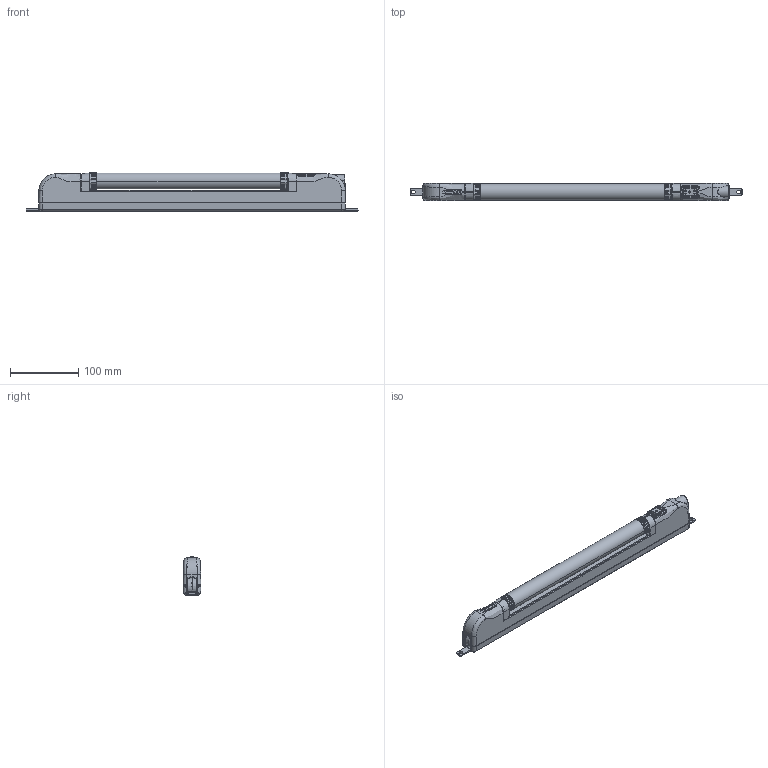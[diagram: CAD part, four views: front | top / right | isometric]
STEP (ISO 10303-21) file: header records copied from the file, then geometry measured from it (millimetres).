
FILE_DESCRIPTION((''),'2;1');
FILE_NAME('ZUSBAU_KUNDEN_LED_SW0001','2013-01-19T',('Administrator'),(''),'PRO/ENGINEER BY PARAMETRIC TECHNOLOGY CORPORATION, 2009460','PRO/ENGINEER BY PARAMETRIC TECHNOLOGY CORPORATION, 2009460','');
FILE_SCHEMA(('AUTOMOTIVE_DESIGN_CC2 { 1 2 10303 214 -1 1 5 2 }'));
Length unit declared in the file: millimetre
Products named in the file (1): ZUSBAU_KUNDEN_LED_SW0001
Bounding box: 485 x 26.17 x 56.14 mm (x, y, z)
Volume: 172173.7 mm3; surface area: 190496.5 mm2
Topology: 4 solids, 4 shells, 3369 faces, 9125 edges, 5762 vertices
Faces by surface type: plane 2001, cone 460, bspline 438, cylinder 318, torus 120, sphere 32
Entity records: 147254 total; most frequent: CARTESIAN_POINT 44801, ORIENTED_EDGE 18202, DIRECTION 14609, EDGE_CURVE 9101, VERTEX_POINT 5762, VECTOR 5133, LINE 5133, AXIS2_PLACEMENT_3D 4738
